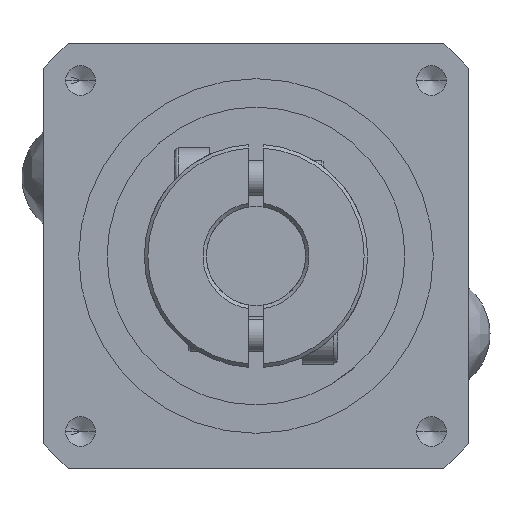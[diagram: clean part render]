
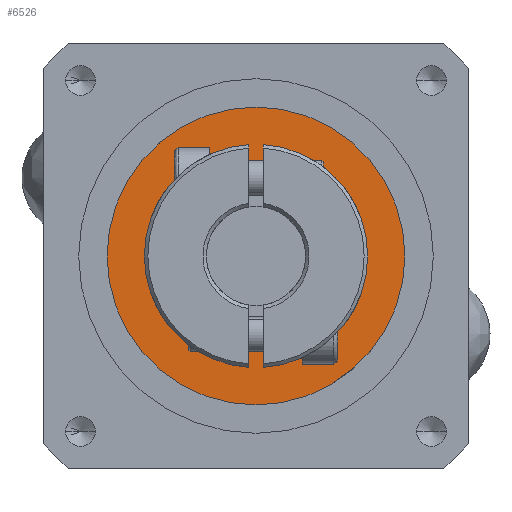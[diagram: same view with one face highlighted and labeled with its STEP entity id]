
A CAD part, left-side view. The second image highlights one B-rep face of the part: STEP entity #6526.
In plain terms, the highlighted planar face has unit normal (-1, 0, 0) as drawn and (0, 0, 1) by its records, which use the part's own axes.
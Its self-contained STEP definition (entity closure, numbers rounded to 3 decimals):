
#533 = CARTESIAN_POINT ( 'NONE',  ( 0., 0., 12.5 ) ) ;
#559 = PLANE ( 'NONE',  #2432 ) ;
#1140 = DIRECTION ( 'NONE',  ( -1., 0., 0. ) ) ;
#1232 = DIRECTION ( 'NONE',  ( 0., 0., 1. ) ) ;
#1861 = EDGE_CURVE ( 'NONE', #6685, #5124, #8641, .T. ) ;
#2432 = AXIS2_PLACEMENT_3D ( 'NONE', #5313, #5410, #5348 ) ;
#3266 = CARTESIAN_POINT ( 'NONE',  ( 30., 0., 12.5 ) ) ;
#4461 = ORIENTED_EDGE ( 'NONE', *, *, #7744, .T. ) ;
#4546 = EDGE_LOOP ( 'NONE', ( #5926, #4461 ) ) ;
#4718 = CIRCLE ( 'NONE', #5029, 30. ) ;
#5029 = AXIS2_PLACEMENT_3D ( 'NONE', #533, #1232, #1140 ) ;
#5124 = VERTEX_POINT ( 'NONE', #3266 ) ;
#5313 = CARTESIAN_POINT ( 'NONE',  ( 0., 0., 12.5 ) ) ;
#5348 = DIRECTION ( 'NONE',  ( 1., 0., 0. ) ) ;
#5410 = DIRECTION ( 'NONE',  ( 0., 0., 1. ) ) ;
#5926 = ORIENTED_EDGE ( 'NONE', *, *, #1861, .T. ) ;
#6051 = DIRECTION ( 'NONE',  ( 0., 0., 1. ) ) ;
#6077 = CARTESIAN_POINT ( 'NONE',  ( -30., 0., 12.5 ) ) ;
#6110 = CARTESIAN_POINT ( 'NONE',  ( 0., 0., 12.5 ) ) ;
#6138 = FACE_OUTER_BOUND ( 'NONE', #4546, .T. ) ;
#6526 = ADVANCED_FACE ( 'NONE', ( #6138 ), #559, .T. ) ;
#6685 = VERTEX_POINT ( 'NONE', #6077 ) ;
#6731 = DIRECTION ( 'NONE',  ( -1., 0., 0. ) ) ;
#7744 = EDGE_CURVE ( 'NONE', #5124, #6685, #4718, .T. ) ;
#8255 = AXIS2_PLACEMENT_3D ( 'NONE', #6110, #6051, #6731 ) ;
#8641 = CIRCLE ( 'NONE', #8255, 30. ) ;
